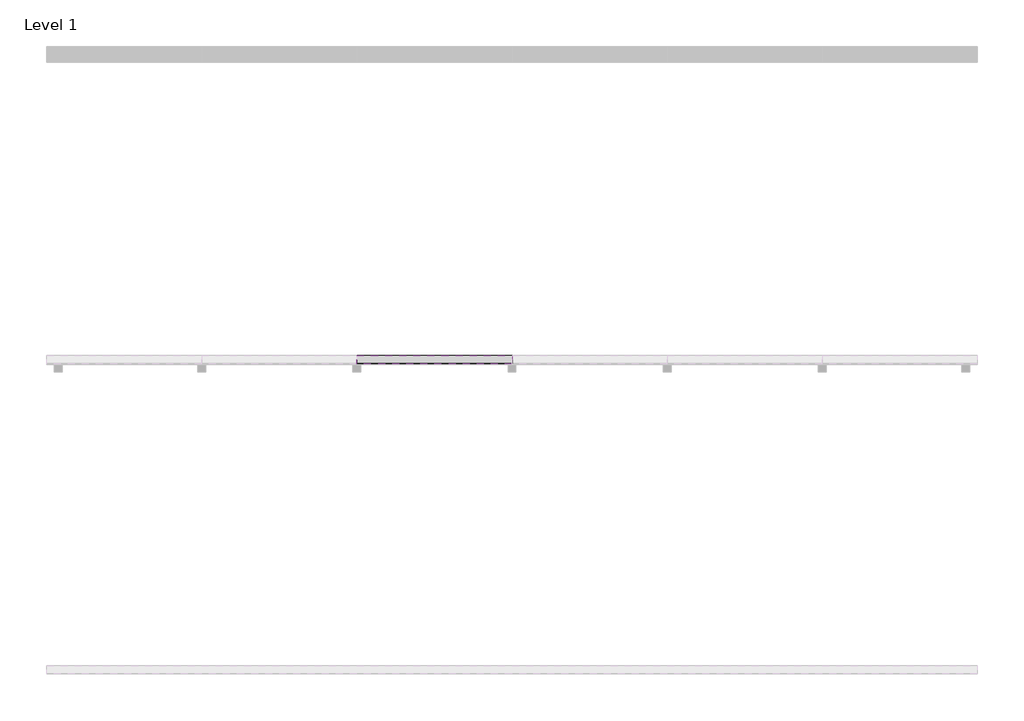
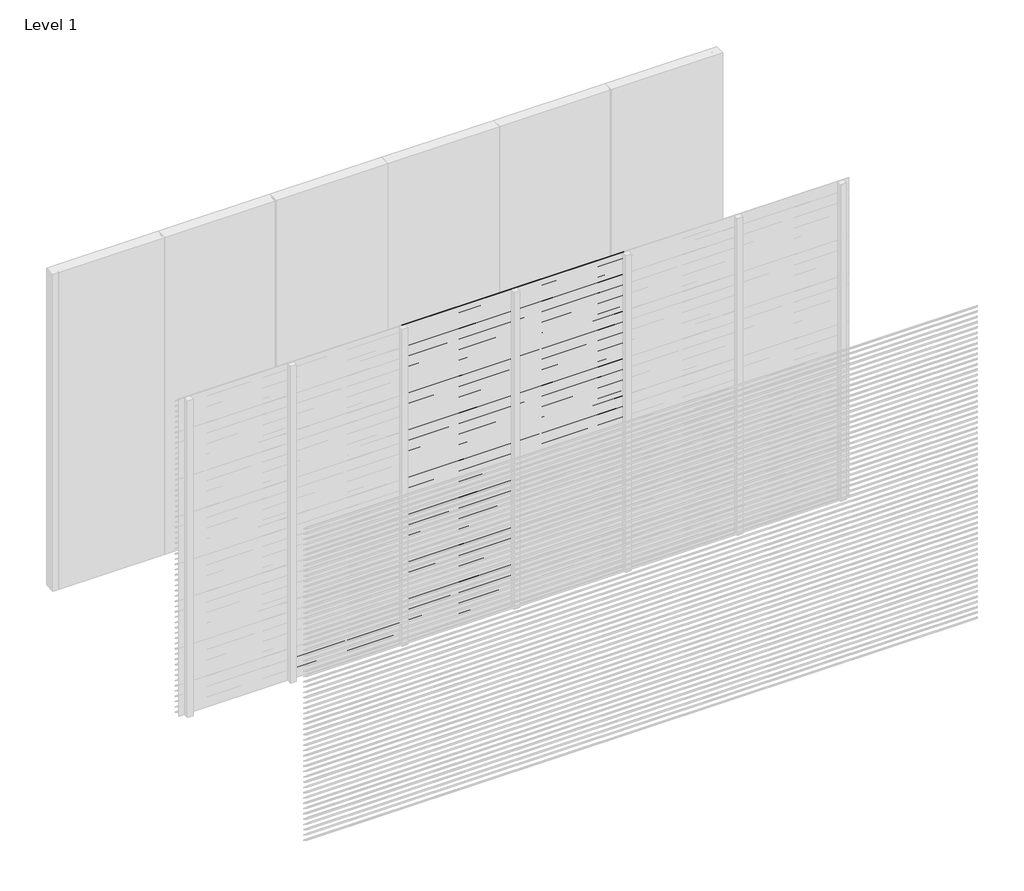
# One storey, part 8 of 18: 97 proxies.
"""IFC4 building model written with IfcOpenShell, lengths in millimetres."""

from ifc_helpers import new_model, si_unit, frame, origin, place, context, project, spatial, polyline, outline, extrude, element, save

model = new_model("IFC4")

# Units and contexts
model_context = context("Model", 3, world=origin())
ifc_project = project(units=[si_unit("LENGTHUNIT", "METRE", prefix="MILLI")], contexts=[model_context])

# Site, building, storey
site = spatial("IfcSite", under=ifc_project)
building = spatial("IfcBuilding", under=site)
storey = spatial("IfcBuildingStorey", under=building, Name="Level 1", Elevation=0.0)

# Proxies
placement = place(None, origin())
element("IfcBuildingElementProxy", 1, Name="Wall Sweeps", at=placement, inside=storey, context=model_context, shape_type="SweptSolid", body=[
    extrude(outline(polyline([(-11995.0, 200.0), (-11995.0, 191.0744429), (-11943.0, 156.0), (-11943.0, 150.0), (-11997.0, 186.4234599), (-11997.0, 200.0), (-11995.0, 200.0)])), frame((1000.0, 0.0, 0.0), z_axis=(1.0, 0.0, 0.0), x_axis=(0.0, 1.0, 0.0)), (0.0, 0.0, 1.0), 1000.0),
])
element("IfcBuildingElementProxy", 2, Name="Wall Sweeps", at=placement, inside=storey, context=model_context, shape_type="SweptSolid", body=[
    extrude(outline(polyline([(-11995.0, 150.0), (-11995.0, 141.0744429), (-11943.0, 106.0), (-11943.0, 100.0), (-11997.0, 136.4234599), (-11997.0, 150.0), (-11995.0, 150.0)])), frame((1000.0, 0.0, 0.0), z_axis=(1.0, 0.0, 0.0), x_axis=(0.0, 1.0, 0.0)), (0.0, 0.0, 1.0), 1000.0),
])
element("IfcBuildingElementProxy", 3, Name="Wall Sweeps", at=placement, inside=storey, context=model_context, shape_type="SweptSolid", body=[
    extrude(outline(polyline([(-11995.0, 100.0), (-11995.0, 91.0744429), (-11943.0, 56.0), (-11943.0, 50.0), (-11997.0, 86.4234599), (-11997.0, 100.0), (-11995.0, 100.0)])), frame((1000.0, 0.0, 0.0), z_axis=(1.0, 0.0, 0.0), x_axis=(0.0, 1.0, 0.0)), (0.0, 0.0, 1.0), 1000.0),
])
element("IfcBuildingElementProxy", 4, Name="Wall Sweeps", at=placement, inside=storey, context=model_context, shape_type="SweptSolid", body=[
    extrude(outline(polyline([(-11995.0, 50.0), (-11995.0, 41.0744429), (-11943.0, 6.0), (-11943.0, 0.0), (-11997.0, 36.4234599), (-11997.0, 50.0), (-11995.0, 50.0)])), frame((1000.0, 0.0, 0.0), z_axis=(1.0, 0.0, 0.0), x_axis=(0.0, 1.0, 0.0)), (0.0, 0.0, 1.0), 1000.0),
])
element("IfcBuildingElementProxy", 5, Name="Wall Sweeps", at=placement, inside=storey, context=model_context, shape_type="SweptSolid", body=[
    extrude(outline(polyline([(-11995.0, 3000.0), (-11995.0, 2991.0744429), (-11943.0, 2956.0), (-11943.0, 2950.0), (-11997.0, 2986.4234599), (-11997.0, 3000.0), (-11995.0, 3000.0)])), frame((2000.0, 0.0, 0.0), z_axis=(1.0, 0.0, 0.0), x_axis=(0.0, 1.0, 0.0)), (0.0, 0.0, 1.0), 1000.0),
])
element("IfcBuildingElementProxy", 6, Name="Wall Sweeps", at=placement, inside=storey, context=model_context, shape_type="SweptSolid", body=[
    extrude(outline(polyline([(-11995.0, 2950.0), (-11995.0, 2941.0744429), (-11943.0, 2906.0), (-11943.0, 2900.0), (-11997.0, 2936.4234599), (-11997.0, 2950.0), (-11995.0, 2950.0)])), frame((2000.0, 0.0, 0.0), z_axis=(1.0, 0.0, 0.0), x_axis=(0.0, 1.0, 0.0)), (0.0, 0.0, 1.0), 1000.0),
])
element("IfcBuildingElementProxy", 7, Name="Wall Sweeps", at=placement, inside=storey, context=model_context, shape_type="SweptSolid", body=[
    extrude(outline(polyline([(-11995.0, 2900.0), (-11995.0, 2891.0744429), (-11943.0, 2856.0), (-11943.0, 2850.0), (-11997.0, 2886.4234599), (-11997.0, 2900.0), (-11995.0, 2900.0)])), frame((2000.0, 0.0, 0.0), z_axis=(1.0, 0.0, 0.0), x_axis=(0.0, 1.0, 0.0)), (0.0, 0.0, 1.0), 1000.0),
])
element("IfcBuildingElementProxy", 8, Name="Wall Sweeps", at=placement, inside=storey, context=model_context, shape_type="SweptSolid", body=[
    extrude(outline(polyline([(-11995.0, 2850.0), (-11995.0, 2841.0744429), (-11943.0, 2806.0), (-11943.0, 2800.0), (-11997.0, 2836.4234599), (-11997.0, 2850.0), (-11995.0, 2850.0)])), frame((2000.0, 0.0, 0.0), z_axis=(1.0, 0.0, 0.0), x_axis=(0.0, 1.0, 0.0)), (0.0, 0.0, 1.0), 1000.0),
])
element("IfcBuildingElementProxy", 9, Name="Wall Sweeps", at=placement, inside=storey, context=model_context, shape_type="SweptSolid", body=[
    extrude(outline(polyline([(-11995.0, 2800.0), (-11995.0, 2791.0744429), (-11943.0, 2756.0), (-11943.0, 2750.0), (-11997.0, 2786.4234599), (-11997.0, 2800.0), (-11995.0, 2800.0)])), frame((2000.0, 0.0, 0.0), z_axis=(1.0, 0.0, 0.0), x_axis=(0.0, 1.0, 0.0)), (0.0, 0.0, 1.0), 1000.0),
])
element("IfcBuildingElementProxy", 10, Name="Wall Sweeps", at=placement, inside=storey, context=model_context, shape_type="SweptSolid", body=[
    extrude(outline(polyline([(-11995.0, 2750.0), (-11995.0, 2741.0744429), (-11943.0, 2706.0), (-11943.0, 2700.0), (-11997.0, 2736.4234599), (-11997.0, 2750.0), (-11995.0, 2750.0)])), frame((2000.0, 0.0, 0.0), z_axis=(1.0, 0.0, 0.0), x_axis=(0.0, 1.0, 0.0)), (0.0, 0.0, 1.0), 1000.0),
])
element("IfcBuildingElementProxy", 11, Name="Wall Sweeps", at=placement, inside=storey, context=model_context, shape_type="SweptSolid", body=[
    extrude(outline(polyline([(-11995.0, 2700.0), (-11995.0, 2691.0744429), (-11943.0, 2656.0), (-11943.0, 2650.0), (-11997.0, 2686.4234599), (-11997.0, 2700.0), (-11995.0, 2700.0)])), frame((2000.0, 0.0, 0.0), z_axis=(1.0, 0.0, 0.0), x_axis=(0.0, 1.0, 0.0)), (0.0, 0.0, 1.0), 1000.0),
])
element("IfcBuildingElementProxy", 12, Name="Wall Sweeps", at=placement, inside=storey, context=model_context, shape_type="SweptSolid", body=[
    extrude(outline(polyline([(-11995.0, 2650.0), (-11995.0, 2641.0744429), (-11943.0, 2606.0), (-11943.0, 2600.0), (-11997.0, 2636.4234599), (-11997.0, 2650.0), (-11995.0, 2650.0)])), frame((2000.0, 0.0, 0.0), z_axis=(1.0, 0.0, 0.0), x_axis=(0.0, 1.0, 0.0)), (0.0, 0.0, 1.0), 1000.0),
])
element("IfcBuildingElementProxy", 13, Name="Wall Sweeps", at=placement, inside=storey, context=model_context, shape_type="SweptSolid", body=[
    extrude(outline(polyline([(-11995.0, 2600.0), (-11995.0, 2591.0744429), (-11943.0, 2556.0), (-11943.0, 2550.0), (-11997.0, 2586.4234599), (-11997.0, 2600.0), (-11995.0, 2600.0)])), frame((2000.0, 0.0, 0.0), z_axis=(1.0, 0.0, 0.0), x_axis=(0.0, 1.0, 0.0)), (0.0, 0.0, 1.0), 1000.0),
])
element("IfcBuildingElementProxy", 14, Name="Wall Sweeps", at=placement, inside=storey, context=model_context, shape_type="SweptSolid", body=[
    extrude(outline(polyline([(-11995.0, 2550.0), (-11995.0, 2541.0744429), (-11943.0, 2506.0), (-11943.0, 2500.0), (-11997.0, 2536.4234599), (-11997.0, 2550.0), (-11995.0, 2550.0)])), frame((2000.0, 0.0, 0.0), z_axis=(1.0, 0.0, 0.0), x_axis=(0.0, 1.0, 0.0)), (0.0, 0.0, 1.0), 1000.0),
])
element("IfcBuildingElementProxy", 15, Name="Wall Sweeps", at=placement, inside=storey, context=model_context, shape_type="SweptSolid", body=[
    extrude(outline(polyline([(-11995.0, 2500.0), (-11995.0, 2491.0744429), (-11943.0, 2456.0), (-11943.0, 2450.0), (-11997.0, 2486.4234599), (-11997.0, 2500.0), (-11995.0, 2500.0)])), frame((2000.0, 0.0, 0.0), z_axis=(1.0, 0.0, 0.0), x_axis=(0.0, 1.0, 0.0)), (0.0, 0.0, 1.0), 1000.0),
])
element("IfcBuildingElementProxy", 16, Name="Wall Sweeps", at=placement, inside=storey, context=model_context, shape_type="SweptSolid", body=[
    extrude(outline(polyline([(-11995.0, 2450.0), (-11995.0, 2441.0744429), (-11943.0, 2406.0), (-11943.0, 2400.0), (-11997.0, 2436.4234599), (-11997.0, 2450.0), (-11995.0, 2450.0)])), frame((2000.0, 0.0, 0.0), z_axis=(1.0, 0.0, 0.0), x_axis=(0.0, 1.0, 0.0)), (0.0, 0.0, 1.0), 1000.0),
])
element("IfcBuildingElementProxy", 17, Name="Wall Sweeps", at=placement, inside=storey, context=model_context, shape_type="SweptSolid", body=[
    extrude(outline(polyline([(-11995.0, 2400.0), (-11995.0, 2391.0744429), (-11943.0, 2356.0), (-11943.0, 2350.0), (-11997.0, 2386.4234599), (-11997.0, 2400.0), (-11995.0, 2400.0)])), frame((2000.0, 0.0, 0.0), z_axis=(1.0, 0.0, 0.0), x_axis=(0.0, 1.0, 0.0)), (0.0, 0.0, 1.0), 1000.0),
])
element("IfcBuildingElementProxy", 18, Name="Wall Sweeps", at=placement, inside=storey, context=model_context, shape_type="SweptSolid", body=[
    extrude(outline(polyline([(-11995.0, 2350.0), (-11995.0, 2341.0744429), (-11943.0, 2306.0), (-11943.0, 2300.0), (-11997.0, 2336.4234599), (-11997.0, 2350.0), (-11995.0, 2350.0)])), frame((2000.0, 0.0, 0.0), z_axis=(1.0, 0.0, 0.0), x_axis=(0.0, 1.0, 0.0)), (0.0, 0.0, 1.0), 1000.0),
])
element("IfcBuildingElementProxy", 19, Name="Wall Sweeps", at=placement, inside=storey, context=model_context, shape_type="SweptSolid", body=[
    extrude(outline(polyline([(-11995.0, 2300.0), (-11995.0, 2291.0744429), (-11943.0, 2256.0), (-11943.0, 2250.0), (-11997.0, 2286.4234599), (-11997.0, 2300.0), (-11995.0, 2300.0)])), frame((2000.0, 0.0, 0.0), z_axis=(1.0, 0.0, 0.0), x_axis=(0.0, 1.0, 0.0)), (0.0, 0.0, 1.0), 1000.0),
])
element("IfcBuildingElementProxy", 20, Name="Wall Sweeps", at=placement, inside=storey, context=model_context, shape_type="SweptSolid", body=[
    extrude(outline(polyline([(-11995.0, 2250.0), (-11995.0, 2241.0744429), (-11943.0, 2206.0), (-11943.0, 2200.0), (-11997.0, 2236.4234599), (-11997.0, 2250.0), (-11995.0, 2250.0)])), frame((2000.0, 0.0, 0.0), z_axis=(1.0, 0.0, 0.0), x_axis=(0.0, 1.0, 0.0)), (0.0, 0.0, 1.0), 1000.0),
])
element("IfcBuildingElementProxy", 21, Name="Wall Sweeps", at=placement, inside=storey, context=model_context, shape_type="SweptSolid", body=[
    extrude(outline(polyline([(-11995.0, 2200.0), (-11995.0, 2191.0744429), (-11943.0, 2156.0), (-11943.0, 2150.0), (-11997.0, 2186.4234599), (-11997.0, 2200.0), (-11995.0, 2200.0)])), frame((2000.0, 0.0, 0.0), z_axis=(1.0, 0.0, 0.0), x_axis=(0.0, 1.0, 0.0)), (0.0, 0.0, 1.0), 1000.0),
])
element("IfcBuildingElementProxy", 22, Name="Wall Sweeps", at=placement, inside=storey, context=model_context, shape_type="SweptSolid", body=[
    extrude(outline(polyline([(-11995.0, 2150.0), (-11995.0, 2141.0744429), (-11943.0, 2106.0), (-11943.0, 2100.0), (-11997.0, 2136.4234599), (-11997.0, 2150.0), (-11995.0, 2150.0)])), frame((2000.0, 0.0, 0.0), z_axis=(1.0, 0.0, 0.0), x_axis=(0.0, 1.0, 0.0)), (0.0, 0.0, 1.0), 1000.0),
])
element("IfcBuildingElementProxy", 23, Name="Wall Sweeps", at=placement, inside=storey, context=model_context, shape_type="SweptSolid", body=[
    extrude(outline(polyline([(-11995.0, 2100.0), (-11995.0, 2091.0744429), (-11943.0, 2056.0), (-11943.0, 2050.0), (-11997.0, 2086.4234599), (-11997.0, 2100.0), (-11995.0, 2100.0)])), frame((2000.0, 0.0, 0.0), z_axis=(1.0, 0.0, 0.0), x_axis=(0.0, 1.0, 0.0)), (0.0, 0.0, 1.0), 1000.0),
])
element("IfcBuildingElementProxy", 24, Name="Wall Sweeps", at=placement, inside=storey, context=model_context, shape_type="SweptSolid", body=[
    extrude(outline(polyline([(-11995.0, 2050.0), (-11995.0, 2041.0744429), (-11943.0, 2006.0), (-11943.0, 2000.0), (-11997.0, 2036.4234599), (-11997.0, 2050.0), (-11995.0, 2050.0)])), frame((2000.0, 0.0, 0.0), z_axis=(1.0, 0.0, 0.0), x_axis=(0.0, 1.0, 0.0)), (0.0, 0.0, 1.0), 1000.0),
])
element("IfcBuildingElementProxy", 25, Name="Wall Sweeps", at=placement, inside=storey, context=model_context, shape_type="SweptSolid", body=[
    extrude(outline(polyline([(-11995.0, 2000.0), (-11995.0, 1991.0744429), (-11943.0, 1956.0), (-11943.0, 1950.0), (-11997.0, 1986.4234599), (-11997.0, 2000.0), (-11995.0, 2000.0)])), frame((2000.0, 0.0, 0.0), z_axis=(1.0, 0.0, 0.0), x_axis=(0.0, 1.0, 0.0)), (0.0, 0.0, 1.0), 1000.0),
])
element("IfcBuildingElementProxy", 26, Name="Wall Sweeps", at=placement, inside=storey, context=model_context, shape_type="SweptSolid", body=[
    extrude(outline(polyline([(-11995.0, 1950.0), (-11995.0, 1941.0744429), (-11943.0, 1906.0), (-11943.0, 1900.0), (-11997.0, 1936.4234599), (-11997.0, 1950.0), (-11995.0, 1950.0)])), frame((2000.0, 0.0, 0.0), z_axis=(1.0, 0.0, 0.0), x_axis=(0.0, 1.0, 0.0)), (0.0, 0.0, 1.0), 1000.0),
])
element("IfcBuildingElementProxy", 27, Name="Wall Sweeps", at=placement, inside=storey, context=model_context, shape_type="SweptSolid", body=[
    extrude(outline(polyline([(-11995.0, 1900.0), (-11995.0, 1891.0744429), (-11943.0, 1856.0), (-11943.0, 1850.0), (-11997.0, 1886.4234599), (-11997.0, 1900.0), (-11995.0, 1900.0)])), frame((2000.0, 0.0, 0.0), z_axis=(1.0, 0.0, 0.0), x_axis=(0.0, 1.0, 0.0)), (0.0, 0.0, 1.0), 1000.0),
])
element("IfcBuildingElementProxy", 28, Name="Wall Sweeps", at=placement, inside=storey, context=model_context, shape_type="SweptSolid", body=[
    extrude(outline(polyline([(-11995.0, 1850.0), (-11995.0, 1841.0744429), (-11943.0, 1806.0), (-11943.0, 1800.0), (-11997.0, 1836.4234599), (-11997.0, 1850.0), (-11995.0, 1850.0)])), frame((2000.0, 0.0, 0.0), z_axis=(1.0, 0.0, 0.0), x_axis=(0.0, 1.0, 0.0)), (0.0, 0.0, 1.0), 1000.0),
])
element("IfcBuildingElementProxy", 29, Name="Wall Sweeps", at=placement, inside=storey, context=model_context, shape_type="SweptSolid", body=[
    extrude(outline(polyline([(-11995.0, 1800.0), (-11995.0, 1791.0744429), (-11943.0, 1756.0), (-11943.0, 1750.0), (-11997.0, 1786.4234599), (-11997.0, 1800.0), (-11995.0, 1800.0)])), frame((2000.0, 0.0, 0.0), z_axis=(1.0, 0.0, 0.0), x_axis=(0.0, 1.0, 0.0)), (0.0, 0.0, 1.0), 1000.0),
])
element("IfcBuildingElementProxy", 30, Name="Wall Sweeps", at=placement, inside=storey, context=model_context, shape_type="SweptSolid", body=[
    extrude(outline(polyline([(-11995.0, 1750.0), (-11995.0, 1741.0744429), (-11943.0, 1706.0), (-11943.0, 1700.0), (-11997.0, 1736.4234599), (-11997.0, 1750.0), (-11995.0, 1750.0)])), frame((2000.0, 0.0, 0.0), z_axis=(1.0, 0.0, 0.0), x_axis=(0.0, 1.0, 0.0)), (0.0, 0.0, 1.0), 1000.0),
])
element("IfcBuildingElementProxy", 31, Name="Wall Sweeps", at=placement, inside=storey, context=model_context, shape_type="SweptSolid", body=[
    extrude(outline(polyline([(-11995.0, 1700.0), (-11995.0, 1691.0744429), (-11943.0, 1656.0), (-11943.0, 1650.0), (-11997.0, 1686.4234599), (-11997.0, 1700.0), (-11995.0, 1700.0)])), frame((2000.0, 0.0, 0.0), z_axis=(1.0, 0.0, 0.0), x_axis=(0.0, 1.0, 0.0)), (0.0, 0.0, 1.0), 1000.0),
])
element("IfcBuildingElementProxy", 32, Name="Wall Sweeps", at=placement, inside=storey, context=model_context, shape_type="SweptSolid", body=[
    extrude(outline(polyline([(-11995.0, 1650.0), (-11995.0, 1641.0744429), (-11943.0, 1606.0), (-11943.0, 1600.0), (-11997.0, 1636.4234599), (-11997.0, 1650.0), (-11995.0, 1650.0)])), frame((2000.0, 0.0, 0.0), z_axis=(1.0, 0.0, 0.0), x_axis=(0.0, 1.0, 0.0)), (0.0, 0.0, 1.0), 1000.0),
])
element("IfcBuildingElementProxy", 33, Name="Wall Sweeps", at=placement, inside=storey, context=model_context, shape_type="SweptSolid", body=[
    extrude(outline(polyline([(-11995.0, 1600.0), (-11995.0, 1591.0744429), (-11943.0, 1556.0), (-11943.0, 1550.0), (-11997.0, 1586.4234599), (-11997.0, 1600.0), (-11995.0, 1600.0)])), frame((2000.0, 0.0, 0.0), z_axis=(1.0, 0.0, 0.0), x_axis=(0.0, 1.0, 0.0)), (0.0, 0.0, 1.0), 1000.0),
])
element("IfcBuildingElementProxy", 34, Name="Wall Sweeps", at=placement, inside=storey, context=model_context, shape_type="SweptSolid", body=[
    extrude(outline(polyline([(-11995.0, 1550.0), (-11995.0, 1541.0744429), (-11943.0, 1506.0), (-11943.0, 1500.0), (-11997.0, 1536.4234599), (-11997.0, 1550.0), (-11995.0, 1550.0)])), frame((2000.0, 0.0, 0.0), z_axis=(1.0, 0.0, 0.0), x_axis=(0.0, 1.0, 0.0)), (0.0, 0.0, 1.0), 1000.0),
])
element("IfcBuildingElementProxy", 35, Name="Wall Sweeps", at=placement, inside=storey, context=model_context, shape_type="SweptSolid", body=[
    extrude(outline(polyline([(-11995.0, 1500.0), (-11995.0, 1491.0744429), (-11943.0, 1456.0), (-11943.0, 1450.0), (-11997.0, 1486.4234599), (-11997.0, 1500.0), (-11995.0, 1500.0)])), frame((2000.0, 0.0, 0.0), z_axis=(1.0, 0.0, 0.0), x_axis=(0.0, 1.0, 0.0)), (0.0, 0.0, 1.0), 1000.0),
])
element("IfcBuildingElementProxy", 36, Name="Wall Sweeps", at=placement, inside=storey, context=model_context, shape_type="SweptSolid", body=[
    extrude(outline(polyline([(-11995.0, 1450.0), (-11995.0, 1441.0744429), (-11943.0, 1406.0), (-11943.0, 1400.0), (-11997.0, 1436.4234599), (-11997.0, 1450.0), (-11995.0, 1450.0)])), frame((2000.0, 0.0, 0.0), z_axis=(1.0, 0.0, 0.0), x_axis=(0.0, 1.0, 0.0)), (0.0, 0.0, 1.0), 1000.0),
])
element("IfcBuildingElementProxy", 37, Name="Wall Sweeps", at=placement, inside=storey, context=model_context, shape_type="SweptSolid", body=[
    extrude(outline(polyline([(-11995.0, 1400.0), (-11995.0, 1391.0744429), (-11943.0, 1356.0), (-11943.0, 1350.0), (-11997.0, 1386.4234599), (-11997.0, 1400.0), (-11995.0, 1400.0)])), frame((2000.0, 0.0, 0.0), z_axis=(1.0, 0.0, 0.0), x_axis=(0.0, 1.0, 0.0)), (0.0, 0.0, 1.0), 1000.0),
])
element("IfcBuildingElementProxy", 38, Name="Wall Sweeps", at=placement, inside=storey, context=model_context, shape_type="SweptSolid", body=[
    extrude(outline(polyline([(-11995.0, 1350.0), (-11995.0, 1341.0744429), (-11943.0, 1306.0), (-11943.0, 1300.0), (-11997.0, 1336.4234599), (-11997.0, 1350.0), (-11995.0, 1350.0)])), frame((2000.0, 0.0, 0.0), z_axis=(1.0, 0.0, 0.0), x_axis=(0.0, 1.0, 0.0)), (0.0, 0.0, 1.0), 1000.0),
])
element("IfcBuildingElementProxy", 39, Name="Wall Sweeps", at=placement, inside=storey, context=model_context, shape_type="SweptSolid", body=[
    extrude(outline(polyline([(-11995.0, 1300.0), (-11995.0, 1291.0744429), (-11943.0, 1256.0), (-11943.0, 1250.0), (-11997.0, 1286.4234599), (-11997.0, 1300.0), (-11995.0, 1300.0)])), frame((2000.0, 0.0, 0.0), z_axis=(1.0, 0.0, 0.0), x_axis=(0.0, 1.0, 0.0)), (0.0, 0.0, 1.0), 1000.0),
])
element("IfcBuildingElementProxy", 40, Name="Wall Sweeps", at=placement, inside=storey, context=model_context, shape_type="SweptSolid", body=[
    extrude(outline(polyline([(-11995.0, 1250.0), (-11995.0, 1241.0744429), (-11943.0, 1206.0), (-11943.0, 1200.0), (-11997.0, 1236.4234599), (-11997.0, 1250.0), (-11995.0, 1250.0)])), frame((2000.0, 0.0, 0.0), z_axis=(1.0, 0.0, 0.0), x_axis=(0.0, 1.0, 0.0)), (0.0, 0.0, 1.0), 1000.0),
])
element("IfcBuildingElementProxy", 41, Name="Wall Sweeps", at=placement, inside=storey, context=model_context, shape_type="SweptSolid", body=[
    extrude(outline(polyline([(-11995.0, 1200.0), (-11995.0, 1191.0744429), (-11943.0, 1156.0), (-11943.0, 1150.0), (-11997.0, 1186.4234599), (-11997.0, 1200.0), (-11995.0, 1200.0)])), frame((2000.0, 0.0, 0.0), z_axis=(1.0, 0.0, 0.0), x_axis=(0.0, 1.0, 0.0)), (0.0, 0.0, 1.0), 1000.0),
])
element("IfcBuildingElementProxy", 42, Name="Wall Sweeps", at=placement, inside=storey, context=model_context, shape_type="SweptSolid", body=[
    extrude(outline(polyline([(-11995.0, 1150.0), (-11995.0, 1141.0744429), (-11943.0, 1106.0), (-11943.0, 1100.0), (-11997.0, 1136.4234599), (-11997.0, 1150.0), (-11995.0, 1150.0)])), frame((2000.0, 0.0, 0.0), z_axis=(1.0, 0.0, 0.0), x_axis=(0.0, 1.0, 0.0)), (0.0, 0.0, 1.0), 1000.0),
])
element("IfcBuildingElementProxy", 43, Name="Wall Sweeps", at=placement, inside=storey, context=model_context, shape_type="SweptSolid", body=[
    extrude(outline(polyline([(-11995.0, 1100.0), (-11995.0, 1091.0744429), (-11943.0, 1056.0), (-11943.0, 1050.0), (-11997.0, 1086.4234599), (-11997.0, 1100.0), (-11995.0, 1100.0)])), frame((2000.0, 0.0, 0.0), z_axis=(1.0, 0.0, 0.0), x_axis=(0.0, 1.0, 0.0)), (0.0, 0.0, 1.0), 1000.0),
])
element("IfcBuildingElementProxy", 44, Name="Wall Sweeps", at=placement, inside=storey, context=model_context, shape_type="SweptSolid", body=[
    extrude(outline(polyline([(-11995.0, 1050.0), (-11995.0, 1041.0744429), (-11943.0, 1006.0), (-11943.0, 1000.0), (-11997.0, 1036.4234599), (-11997.0, 1050.0), (-11995.0, 1050.0)])), frame((2000.0, 0.0, 0.0), z_axis=(1.0, 0.0, 0.0), x_axis=(0.0, 1.0, 0.0)), (0.0, 0.0, 1.0), 1000.0),
])
element("IfcBuildingElementProxy", 45, Name="Wall Sweeps", at=placement, inside=storey, context=model_context, shape_type="SweptSolid", body=[
    extrude(outline(polyline([(-11995.0, 1000.0), (-11995.0, 991.0744429), (-11943.0, 956.0), (-11943.0, 950.0), (-11997.0, 986.4234599), (-11997.0, 1000.0), (-11995.0, 1000.0)])), frame((2000.0, 0.0, 0.0), z_axis=(1.0, 0.0, 0.0), x_axis=(0.0, 1.0, 0.0)), (0.0, 0.0, 1.0), 1000.0),
])
element("IfcBuildingElementProxy", 46, Name="Wall Sweeps", at=placement, inside=storey, context=model_context, shape_type="SweptSolid", body=[
    extrude(outline(polyline([(-11995.0, 950.0), (-11995.0, 941.0744429), (-11943.0, 906.0), (-11943.0, 900.0), (-11997.0, 936.4234599), (-11997.0, 950.0), (-11995.0, 950.0)])), frame((2000.0, 0.0, 0.0), z_axis=(1.0, 0.0, 0.0), x_axis=(0.0, 1.0, 0.0)), (0.0, 0.0, 1.0), 1000.0),
])
element("IfcBuildingElementProxy", 47, Name="Wall Sweeps", at=placement, inside=storey, context=model_context, shape_type="SweptSolid", body=[
    extrude(outline(polyline([(-11995.0, 900.0), (-11995.0, 891.0744429), (-11943.0, 856.0), (-11943.0, 850.0), (-11997.0, 886.4234599), (-11997.0, 900.0), (-11995.0, 900.0)])), frame((2000.0, 0.0, 0.0), z_axis=(1.0, 0.0, 0.0), x_axis=(0.0, 1.0, 0.0)), (0.0, 0.0, 1.0), 1000.0),
])
element("IfcBuildingElementProxy", 48, Name="Wall Sweeps", at=placement, inside=storey, context=model_context, shape_type="SweptSolid", body=[
    extrude(outline(polyline([(-11995.0, 850.0), (-11995.0, 841.0744429), (-11943.0, 806.0), (-11943.0, 800.0), (-11997.0, 836.4234599), (-11997.0, 850.0), (-11995.0, 850.0)])), frame((2000.0, 0.0, 0.0), z_axis=(1.0, 0.0, 0.0), x_axis=(0.0, 1.0, 0.0)), (0.0, 0.0, 1.0), 1000.0),
])
element("IfcBuildingElementProxy", 49, Name="Wall Sweeps", at=placement, inside=storey, context=model_context, shape_type="SweptSolid", body=[
    extrude(outline(polyline([(-11995.0, 800.0), (-11995.0, 791.0744429), (-11943.0, 756.0), (-11943.0, 750.0), (-11997.0, 786.4234599), (-11997.0, 800.0), (-11995.0, 800.0)])), frame((2000.0, 0.0, 0.0), z_axis=(1.0, 0.0, 0.0), x_axis=(0.0, 1.0, 0.0)), (0.0, 0.0, 1.0), 1000.0),
])
element("IfcBuildingElementProxy", 50, Name="Wall Sweeps", at=placement, inside=storey, context=model_context, shape_type="SweptSolid", body=[
    extrude(outline(polyline([(-11995.0, 750.0), (-11995.0, 741.0744429), (-11943.0, 706.0), (-11943.0, 700.0), (-11997.0, 736.4234599), (-11997.0, 750.0), (-11995.0, 750.0)])), frame((2000.0, 0.0, 0.0), z_axis=(1.0, 0.0, 0.0), x_axis=(0.0, 1.0, 0.0)), (0.0, 0.0, 1.0), 1000.0),
])
element("IfcBuildingElementProxy", 51, Name="Wall Sweeps", at=placement, inside=storey, context=model_context, shape_type="SweptSolid", body=[
    extrude(outline(polyline([(-11995.0, 700.0), (-11995.0, 691.0744429), (-11943.0, 656.0), (-11943.0, 650.0), (-11997.0, 686.4234599), (-11997.0, 700.0), (-11995.0, 700.0)])), frame((2000.0, 0.0, 0.0), z_axis=(1.0, 0.0, 0.0), x_axis=(0.0, 1.0, 0.0)), (0.0, 0.0, 1.0), 1000.0),
])
element("IfcBuildingElementProxy", 52, Name="Wall Sweeps", at=placement, inside=storey, context=model_context, shape_type="SweptSolid", body=[
    extrude(outline(polyline([(-11995.0, 650.0), (-11995.0, 641.0744429), (-11943.0, 606.0), (-11943.0, 600.0), (-11997.0, 636.4234599), (-11997.0, 650.0), (-11995.0, 650.0)])), frame((2000.0, 0.0, 0.0), z_axis=(1.0, 0.0, 0.0), x_axis=(0.0, 1.0, 0.0)), (0.0, 0.0, 1.0), 1000.0),
])
element("IfcBuildingElementProxy", 53, Name="Wall Sweeps", at=placement, inside=storey, context=model_context, shape_type="SweptSolid", body=[
    extrude(outline(polyline([(-11995.0, 600.0), (-11995.0, 591.0744429), (-11943.0, 556.0), (-11943.0, 550.0), (-11997.0, 586.4234599), (-11997.0, 600.0), (-11995.0, 600.0)])), frame((2000.0, 0.0, 0.0), z_axis=(1.0, 0.0, 0.0), x_axis=(0.0, 1.0, 0.0)), (0.0, 0.0, 1.0), 1000.0),
])
element("IfcBuildingElementProxy", 54, Name="Wall Sweeps", at=placement, inside=storey, context=model_context, shape_type="SweptSolid", body=[
    extrude(outline(polyline([(-11995.0, 550.0), (-11995.0, 541.0744429), (-11943.0, 506.0), (-11943.0, 500.0), (-11997.0, 536.4234599), (-11997.0, 550.0), (-11995.0, 550.0)])), frame((2000.0, 0.0, 0.0), z_axis=(1.0, 0.0, 0.0), x_axis=(0.0, 1.0, 0.0)), (0.0, 0.0, 1.0), 1000.0),
])
element("IfcBuildingElementProxy", 55, Name="Wall Sweeps", at=placement, inside=storey, context=model_context, shape_type="SweptSolid", body=[
    extrude(outline(polyline([(-11995.0, 500.0), (-11995.0, 491.0744429), (-11943.0, 456.0), (-11943.0, 450.0), (-11997.0, 486.4234599), (-11997.0, 500.0), (-11995.0, 500.0)])), frame((2000.0, 0.0, 0.0), z_axis=(1.0, 0.0, 0.0), x_axis=(0.0, 1.0, 0.0)), (0.0, 0.0, 1.0), 1000.0),
])
element("IfcBuildingElementProxy", 56, Name="Wall Sweeps", at=placement, inside=storey, context=model_context, shape_type="SweptSolid", body=[
    extrude(outline(polyline([(-11995.0, 450.0), (-11995.0, 441.0744429), (-11943.0, 406.0), (-11943.0, 400.0), (-11997.0, 436.4234599), (-11997.0, 450.0), (-11995.0, 450.0)])), frame((2000.0, 0.0, 0.0), z_axis=(1.0, 0.0, 0.0), x_axis=(0.0, 1.0, 0.0)), (0.0, 0.0, 1.0), 1000.0),
])
element("IfcBuildingElementProxy", 57, Name="Wall Sweeps", at=placement, inside=storey, context=model_context, shape_type="SweptSolid", body=[
    extrude(outline(polyline([(-11995.0, 400.0), (-11995.0, 391.0744429), (-11943.0, 356.0), (-11943.0, 350.0), (-11997.0, 386.4234599), (-11997.0, 400.0), (-11995.0, 400.0)])), frame((2000.0, 0.0, 0.0), z_axis=(1.0, 0.0, 0.0), x_axis=(0.0, 1.0, 0.0)), (0.0, 0.0, 1.0), 1000.0),
])
element("IfcBuildingElementProxy", 58, Name="Wall Sweeps", at=placement, inside=storey, context=model_context, shape_type="SweptSolid", body=[
    extrude(outline(polyline([(-11995.0, 350.0), (-11995.0, 341.0744429), (-11943.0, 306.0), (-11943.0, 300.0), (-11997.0, 336.4234599), (-11997.0, 350.0), (-11995.0, 350.0)])), frame((2000.0, 0.0, 0.0), z_axis=(1.0, 0.0, 0.0), x_axis=(0.0, 1.0, 0.0)), (0.0, 0.0, 1.0), 1000.0),
])
element("IfcBuildingElementProxy", 59, Name="Wall Sweeps", at=placement, inside=storey, context=model_context, shape_type="SweptSolid", body=[
    extrude(outline(polyline([(-11995.0, 300.0), (-11995.0, 291.0744429), (-11943.0, 256.0), (-11943.0, 250.0), (-11997.0, 286.4234599), (-11997.0, 300.0), (-11995.0, 300.0)])), frame((2000.0, 0.0, 0.0), z_axis=(1.0, 0.0, 0.0), x_axis=(0.0, 1.0, 0.0)), (0.0, 0.0, 1.0), 1000.0),
])
element("IfcBuildingElementProxy", 60, Name="Wall Sweeps", at=placement, inside=storey, context=model_context, shape_type="SweptSolid", body=[
    extrude(outline(polyline([(-11995.0, 250.0), (-11995.0, 241.0744429), (-11943.0, 206.0), (-11943.0, 200.0), (-11997.0, 236.4234599), (-11997.0, 250.0), (-11995.0, 250.0)])), frame((2000.0, 0.0, 0.0), z_axis=(1.0, 0.0, 0.0), x_axis=(0.0, 1.0, 0.0)), (0.0, 0.0, 1.0), 1000.0),
])
element("IfcBuildingElementProxy", 61, Name="Wall Sweeps", at=placement, inside=storey, context=model_context, shape_type="SweptSolid", body=[
    extrude(outline(polyline([(-11995.0, 200.0), (-11995.0, 191.0744429), (-11943.0, 156.0), (-11943.0, 150.0), (-11997.0, 186.4234599), (-11997.0, 200.0), (-11995.0, 200.0)])), frame((2000.0, 0.0, 0.0), z_axis=(1.0, 0.0, 0.0), x_axis=(0.0, 1.0, 0.0)), (0.0, 0.0, 1.0), 1000.0),
])
element("IfcBuildingElementProxy", 62, Name="Wall Sweeps", at=placement, inside=storey, context=model_context, shape_type="SweptSolid", body=[
    extrude(outline(polyline([(-11995.0, 150.0), (-11995.0, 141.0744429), (-11943.0, 106.0), (-11943.0, 100.0), (-11997.0, 136.4234599), (-11997.0, 150.0), (-11995.0, 150.0)])), frame((2000.0, 0.0, 0.0), z_axis=(1.0, 0.0, 0.0), x_axis=(0.0, 1.0, 0.0)), (0.0, 0.0, 1.0), 1000.0),
])
element("IfcBuildingElementProxy", 63, Name="Wall Sweeps", at=placement, inside=storey, context=model_context, shape_type="SweptSolid", body=[
    extrude(outline(polyline([(-11995.0, 100.0), (-11995.0, 91.0744429), (-11943.0, 56.0), (-11943.0, 50.0), (-11997.0, 86.4234599), (-11997.0, 100.0), (-11995.0, 100.0)])), frame((2000.0, 0.0, 0.0), z_axis=(1.0, 0.0, 0.0), x_axis=(0.0, 1.0, 0.0)), (0.0, 0.0, 1.0), 1000.0),
])
element("IfcBuildingElementProxy", 64, Name="Wall Sweeps", at=placement, inside=storey, context=model_context, shape_type="SweptSolid", body=[
    extrude(outline(polyline([(-11995.0, 50.0), (-11995.0, 41.0744429), (-11943.0, 6.0), (-11943.0, 0.0), (-11997.0, 36.4234599), (-11997.0, 50.0), (-11995.0, 50.0)])), frame((2000.0, 0.0, 0.0), z_axis=(1.0, 0.0, 0.0), x_axis=(0.0, 1.0, 0.0)), (0.0, 0.0, 1.0), 1000.0),
])
element("IfcBuildingElementProxy", 65, Name="Wall Sweeps", at=placement, inside=storey, context=model_context, shape_type="SweptSolid", body=[
    extrude(outline(polyline([(-11995.0, 3000.0), (-11995.0, 2991.0744429), (-11943.0, 2956.0), (-11943.0, 2950.0), (-11997.0, 2986.4234599), (-11997.0, 3000.0), (-11995.0, 3000.0)])), frame((3000.0, 0.0, 0.0), z_axis=(1.0, 0.0, 0.0), x_axis=(0.0, 1.0, 0.0)), (0.0, 0.0, 1.0), 1000.0),
])
element("IfcBuildingElementProxy", 66, Name="Wall Sweeps", at=placement, inside=storey, context=model_context, shape_type="SweptSolid", body=[
    extrude(outline(polyline([(-11995.0, 2950.0), (-11995.0, 2941.0744429), (-11943.0, 2906.0), (-11943.0, 2900.0), (-11997.0, 2936.4234599), (-11997.0, 2950.0), (-11995.0, 2950.0)])), frame((3000.0, 0.0, 0.0), z_axis=(1.0, 0.0, 0.0), x_axis=(0.0, 1.0, 0.0)), (0.0, 0.0, 1.0), 1000.0),
])
element("IfcBuildingElementProxy", 67, Name="Wall Sweeps", at=placement, inside=storey, context=model_context, shape_type="SweptSolid", body=[
    extrude(outline(polyline([(-11995.0, 2900.0), (-11995.0, 2891.0744429), (-11943.0, 2856.0), (-11943.0, 2850.0), (-11997.0, 2886.4234599), (-11997.0, 2900.0), (-11995.0, 2900.0)])), frame((3000.0, 0.0, 0.0), z_axis=(1.0, 0.0, 0.0), x_axis=(0.0, 1.0, 0.0)), (0.0, 0.0, 1.0), 1000.0),
])
element("IfcBuildingElementProxy", 68, Name="Wall Sweeps", at=placement, inside=storey, context=model_context, shape_type="SweptSolid", body=[
    extrude(outline(polyline([(-11995.0, 2850.0), (-11995.0, 2841.0744429), (-11943.0, 2806.0), (-11943.0, 2800.0), (-11997.0, 2836.4234599), (-11997.0, 2850.0), (-11995.0, 2850.0)])), frame((3000.0, 0.0, 0.0), z_axis=(1.0, 0.0, 0.0), x_axis=(0.0, 1.0, 0.0)), (0.0, 0.0, 1.0), 1000.0),
])
element("IfcBuildingElementProxy", 69, Name="Wall Sweeps", at=placement, inside=storey, context=model_context, shape_type="SweptSolid", body=[
    extrude(outline(polyline([(-11995.0, 2800.0), (-11995.0, 2791.0744429), (-11943.0, 2756.0), (-11943.0, 2750.0), (-11997.0, 2786.4234599), (-11997.0, 2800.0), (-11995.0, 2800.0)])), frame((3000.0, 0.0, 0.0), z_axis=(1.0, 0.0, 0.0), x_axis=(0.0, 1.0, 0.0)), (0.0, 0.0, 1.0), 1000.0),
])
element("IfcBuildingElementProxy", 70, Name="Wall Sweeps", at=placement, inside=storey, context=model_context, shape_type="SweptSolid", body=[
    extrude(outline(polyline([(-11995.0, 2750.0), (-11995.0, 2741.0744429), (-11943.0, 2706.0), (-11943.0, 2700.0), (-11997.0, 2736.4234599), (-11997.0, 2750.0), (-11995.0, 2750.0)])), frame((3000.0, 0.0, 0.0), z_axis=(1.0, 0.0, 0.0), x_axis=(0.0, 1.0, 0.0)), (0.0, 0.0, 1.0), 1000.0),
])
element("IfcBuildingElementProxy", 71, Name="Wall Sweeps", at=placement, inside=storey, context=model_context, shape_type="SweptSolid", body=[
    extrude(outline(polyline([(-11995.0, 2700.0), (-11995.0, 2691.0744429), (-11943.0, 2656.0), (-11943.0, 2650.0), (-11997.0, 2686.4234599), (-11997.0, 2700.0), (-11995.0, 2700.0)])), frame((3000.0, 0.0, 0.0), z_axis=(1.0, 0.0, 0.0), x_axis=(0.0, 1.0, 0.0)), (0.0, 0.0, 1.0), 1000.0),
])
element("IfcBuildingElementProxy", 72, Name="Wall Sweeps", at=placement, inside=storey, context=model_context, shape_type="SweptSolid", body=[
    extrude(outline(polyline([(-11995.0, 2650.0), (-11995.0, 2641.0744429), (-11943.0, 2606.0), (-11943.0, 2600.0), (-11997.0, 2636.4234599), (-11997.0, 2650.0), (-11995.0, 2650.0)])), frame((3000.0, 0.0, 0.0), z_axis=(1.0, 0.0, 0.0), x_axis=(0.0, 1.0, 0.0)), (0.0, 0.0, 1.0), 1000.0),
])
element("IfcBuildingElementProxy", 73, Name="Wall Sweeps", at=placement, inside=storey, context=model_context, shape_type="SweptSolid", body=[
    extrude(outline(polyline([(-11995.0, 2600.0), (-11995.0, 2591.0744429), (-11943.0, 2556.0), (-11943.0, 2550.0), (-11997.0, 2586.4234599), (-11997.0, 2600.0), (-11995.0, 2600.0)])), frame((3000.0, 0.0, 0.0), z_axis=(1.0, 0.0, 0.0), x_axis=(0.0, 1.0, 0.0)), (0.0, 0.0, 1.0), 1000.0),
])
element("IfcBuildingElementProxy", 74, Name="Wall Sweeps", at=placement, inside=storey, context=model_context, shape_type="SweptSolid", body=[
    extrude(outline(polyline([(-11995.0, 2550.0), (-11995.0, 2541.0744429), (-11943.0, 2506.0), (-11943.0, 2500.0), (-11997.0, 2536.4234599), (-11997.0, 2550.0), (-11995.0, 2550.0)])), frame((3000.0, 0.0, 0.0), z_axis=(1.0, 0.0, 0.0), x_axis=(0.0, 1.0, 0.0)), (0.0, 0.0, 1.0), 1000.0),
])
element("IfcBuildingElementProxy", 75, Name="Wall Sweeps", at=placement, inside=storey, context=model_context, shape_type="SweptSolid", body=[
    extrude(outline(polyline([(-11995.0, 2500.0), (-11995.0, 2491.0744429), (-11943.0, 2456.0), (-11943.0, 2450.0), (-11997.0, 2486.4234599), (-11997.0, 2500.0), (-11995.0, 2500.0)])), frame((3000.0, 0.0, 0.0), z_axis=(1.0, 0.0, 0.0), x_axis=(0.0, 1.0, 0.0)), (0.0, 0.0, 1.0), 1000.0),
])
element("IfcBuildingElementProxy", 76, Name="Wall Sweeps", at=placement, inside=storey, context=model_context, shape_type="SweptSolid", body=[
    extrude(outline(polyline([(-11995.0, 2450.0), (-11995.0, 2441.0744429), (-11943.0, 2406.0), (-11943.0, 2400.0), (-11997.0, 2436.4234599), (-11997.0, 2450.0), (-11995.0, 2450.0)])), frame((3000.0, 0.0, 0.0), z_axis=(1.0, 0.0, 0.0), x_axis=(0.0, 1.0, 0.0)), (0.0, 0.0, 1.0), 1000.0),
])
element("IfcBuildingElementProxy", 77, Name="Wall Sweeps", at=placement, inside=storey, context=model_context, shape_type="SweptSolid", body=[
    extrude(outline(polyline([(-11995.0, 2400.0), (-11995.0, 2391.0744429), (-11943.0, 2356.0), (-11943.0, 2350.0), (-11997.0, 2386.4234599), (-11997.0, 2400.0), (-11995.0, 2400.0)])), frame((3000.0, 0.0, 0.0), z_axis=(1.0, 0.0, 0.0), x_axis=(0.0, 1.0, 0.0)), (0.0, 0.0, 1.0), 1000.0),
])
element("IfcBuildingElementProxy", 78, Name="Wall Sweeps", at=placement, inside=storey, context=model_context, shape_type="SweptSolid", body=[
    extrude(outline(polyline([(-11995.0, 2350.0), (-11995.0, 2341.0744429), (-11943.0, 2306.0), (-11943.0, 2300.0), (-11997.0, 2336.4234599), (-11997.0, 2350.0), (-11995.0, 2350.0)])), frame((3000.0, 0.0, 0.0), z_axis=(1.0, 0.0, 0.0), x_axis=(0.0, 1.0, 0.0)), (0.0, 0.0, 1.0), 1000.0),
])
element("IfcBuildingElementProxy", 79, Name="Wall Sweeps", at=placement, inside=storey, context=model_context, shape_type="SweptSolid", body=[
    extrude(outline(polyline([(-11995.0, 2300.0), (-11995.0, 2291.0744429), (-11943.0, 2256.0), (-11943.0, 2250.0), (-11997.0, 2286.4234599), (-11997.0, 2300.0), (-11995.0, 2300.0)])), frame((3000.0, 0.0, 0.0), z_axis=(1.0, 0.0, 0.0), x_axis=(0.0, 1.0, 0.0)), (0.0, 0.0, 1.0), 1000.0),
])
element("IfcBuildingElementProxy", 80, Name="Wall Sweeps", at=placement, inside=storey, context=model_context, shape_type="SweptSolid", body=[
    extrude(outline(polyline([(-11995.0, 2250.0), (-11995.0, 2241.0744429), (-11943.0, 2206.0), (-11943.0, 2200.0), (-11997.0, 2236.4234599), (-11997.0, 2250.0), (-11995.0, 2250.0)])), frame((3000.0, 0.0, 0.0), z_axis=(1.0, 0.0, 0.0), x_axis=(0.0, 1.0, 0.0)), (0.0, 0.0, 1.0), 1000.0),
])
element("IfcBuildingElementProxy", 81, Name="Wall Sweeps", at=placement, inside=storey, context=model_context, shape_type="SweptSolid", body=[
    extrude(outline(polyline([(-11995.0, 2200.0), (-11995.0, 2191.0744429), (-11943.0, 2156.0), (-11943.0, 2150.0), (-11997.0, 2186.4234599), (-11997.0, 2200.0), (-11995.0, 2200.0)])), frame((3000.0, 0.0, 0.0), z_axis=(1.0, 0.0, 0.0), x_axis=(0.0, 1.0, 0.0)), (0.0, 0.0, 1.0), 1000.0),
])
element("IfcBuildingElementProxy", 82, Name="Wall Sweeps", at=placement, inside=storey, context=model_context, shape_type="SweptSolid", body=[
    extrude(outline(polyline([(-11995.0, 2150.0), (-11995.0, 2141.0744429), (-11943.0, 2106.0), (-11943.0, 2100.0), (-11997.0, 2136.4234599), (-11997.0, 2150.0), (-11995.0, 2150.0)])), frame((3000.0, 0.0, 0.0), z_axis=(1.0, 0.0, 0.0), x_axis=(0.0, 1.0, 0.0)), (0.0, 0.0, 1.0), 1000.0),
])
element("IfcBuildingElementProxy", 83, Name="Wall Sweeps", at=placement, inside=storey, context=model_context, shape_type="SweptSolid", body=[
    extrude(outline(polyline([(-11995.0, 2100.0), (-11995.0, 2091.0744429), (-11943.0, 2056.0), (-11943.0, 2050.0), (-11997.0, 2086.4234599), (-11997.0, 2100.0), (-11995.0, 2100.0)])), frame((3000.0, 0.0, 0.0), z_axis=(1.0, 0.0, 0.0), x_axis=(0.0, 1.0, 0.0)), (0.0, 0.0, 1.0), 1000.0),
])
element("IfcBuildingElementProxy", 84, Name="Wall Sweeps", at=placement, inside=storey, context=model_context, shape_type="SweptSolid", body=[
    extrude(outline(polyline([(-11995.0, 2050.0), (-11995.0, 2041.0744429), (-11943.0, 2006.0), (-11943.0, 2000.0), (-11997.0, 2036.4234599), (-11997.0, 2050.0), (-11995.0, 2050.0)])), frame((3000.0, 0.0, 0.0), z_axis=(1.0, 0.0, 0.0), x_axis=(0.0, 1.0, 0.0)), (0.0, 0.0, 1.0), 1000.0),
])
element("IfcBuildingElementProxy", 85, Name="Wall Sweeps", at=placement, inside=storey, context=model_context, shape_type="SweptSolid", body=[
    extrude(outline(polyline([(-11995.0, 2000.0), (-11995.0, 1991.0744429), (-11943.0, 1956.0), (-11943.0, 1950.0), (-11997.0, 1986.4234599), (-11997.0, 2000.0), (-11995.0, 2000.0)])), frame((3000.0, 0.0, 0.0), z_axis=(1.0, 0.0, 0.0), x_axis=(0.0, 1.0, 0.0)), (0.0, 0.0, 1.0), 1000.0),
])
element("IfcBuildingElementProxy", 86, Name="Wall Sweeps", at=placement, inside=storey, context=model_context, shape_type="SweptSolid", body=[
    extrude(outline(polyline([(-11995.0, 1950.0), (-11995.0, 1941.0744429), (-11943.0, 1906.0), (-11943.0, 1900.0), (-11997.0, 1936.4234599), (-11997.0, 1950.0), (-11995.0, 1950.0)])), frame((3000.0, 0.0, 0.0), z_axis=(1.0, 0.0, 0.0), x_axis=(0.0, 1.0, 0.0)), (0.0, 0.0, 1.0), 1000.0),
])
element("IfcBuildingElementProxy", 87, Name="Wall Sweeps", at=placement, inside=storey, context=model_context, shape_type="SweptSolid", body=[
    extrude(outline(polyline([(-11995.0, 1900.0), (-11995.0, 1891.0744429), (-11943.0, 1856.0), (-11943.0, 1850.0), (-11997.0, 1886.4234599), (-11997.0, 1900.0), (-11995.0, 1900.0)])), frame((3000.0, 0.0, 0.0), z_axis=(1.0, 0.0, 0.0), x_axis=(0.0, 1.0, 0.0)), (0.0, 0.0, 1.0), 1000.0),
])
element("IfcBuildingElementProxy", 88, Name="Wall Sweeps", at=placement, inside=storey, context=model_context, shape_type="SweptSolid", body=[
    extrude(outline(polyline([(-11995.0, 1850.0), (-11995.0, 1841.0744429), (-11943.0, 1806.0), (-11943.0, 1800.0), (-11997.0, 1836.4234599), (-11997.0, 1850.0), (-11995.0, 1850.0)])), frame((3000.0, 0.0, 0.0), z_axis=(1.0, 0.0, 0.0), x_axis=(0.0, 1.0, 0.0)), (0.0, 0.0, 1.0), 1000.0),
])
element("IfcBuildingElementProxy", 89, Name="Wall Sweeps", at=placement, inside=storey, context=model_context, shape_type="SweptSolid", body=[
    extrude(outline(polyline([(-11995.0, 1800.0), (-11995.0, 1791.0744429), (-11943.0, 1756.0), (-11943.0, 1750.0), (-11997.0, 1786.4234599), (-11997.0, 1800.0), (-11995.0, 1800.0)])), frame((3000.0, 0.0, 0.0), z_axis=(1.0, 0.0, 0.0), x_axis=(0.0, 1.0, 0.0)), (0.0, 0.0, 1.0), 1000.0),
])
element("IfcBuildingElementProxy", 90, Name="Wall Sweeps", at=placement, inside=storey, context=model_context, shape_type="SweptSolid", body=[
    extrude(outline(polyline([(-11995.0, 1750.0), (-11995.0, 1741.0744429), (-11943.0, 1706.0), (-11943.0, 1700.0), (-11997.0, 1736.4234599), (-11997.0, 1750.0), (-11995.0, 1750.0)])), frame((3000.0, 0.0, 0.0), z_axis=(1.0, 0.0, 0.0), x_axis=(0.0, 1.0, 0.0)), (0.0, 0.0, 1.0), 1000.0),
])
element("IfcBuildingElementProxy", 91, Name="Wall Sweeps", at=placement, inside=storey, context=model_context, shape_type="SweptSolid", body=[
    extrude(outline(polyline([(-11995.0, 1700.0), (-11995.0, 1691.0744429), (-11943.0, 1656.0), (-11943.0, 1650.0), (-11997.0, 1686.4234599), (-11997.0, 1700.0), (-11995.0, 1700.0)])), frame((3000.0, 0.0, 0.0), z_axis=(1.0, 0.0, 0.0), x_axis=(0.0, 1.0, 0.0)), (0.0, 0.0, 1.0), 1000.0),
])
element("IfcBuildingElementProxy", 92, Name="Wall Sweeps", at=placement, inside=storey, context=model_context, shape_type="SweptSolid", body=[
    extrude(outline(polyline([(-11995.0, 1650.0), (-11995.0, 1641.0744429), (-11943.0, 1606.0), (-11943.0, 1600.0), (-11997.0, 1636.4234599), (-11997.0, 1650.0), (-11995.0, 1650.0)])), frame((3000.0, 0.0, 0.0), z_axis=(1.0, 0.0, 0.0), x_axis=(0.0, 1.0, 0.0)), (0.0, 0.0, 1.0), 1000.0),
])
element("IfcBuildingElementProxy", 93, Name="Wall Sweeps", at=placement, inside=storey, context=model_context, shape_type="SweptSolid", body=[
    extrude(outline(polyline([(-11995.0, 1600.0), (-11995.0, 1591.0744429), (-11943.0, 1556.0), (-11943.0, 1550.0), (-11997.0, 1586.4234599), (-11997.0, 1600.0), (-11995.0, 1600.0)])), frame((3000.0, 0.0, 0.0), z_axis=(1.0, 0.0, 0.0), x_axis=(0.0, 1.0, 0.0)), (0.0, 0.0, 1.0), 1000.0),
])
element("IfcBuildingElementProxy", 94, Name="Wall Sweeps", at=placement, inside=storey, context=model_context, shape_type="SweptSolid", body=[
    extrude(outline(polyline([(-11995.0, 1550.0), (-11995.0, 1541.0744429), (-11943.0, 1506.0), (-11943.0, 1500.0), (-11997.0, 1536.4234599), (-11997.0, 1550.0), (-11995.0, 1550.0)])), frame((3000.0, 0.0, 0.0), z_axis=(1.0, 0.0, 0.0), x_axis=(0.0, 1.0, 0.0)), (0.0, 0.0, 1.0), 1000.0),
])
element("IfcBuildingElementProxy", 95, Name="Wall Sweeps", at=placement, inside=storey, context=model_context, shape_type="SweptSolid", body=[
    extrude(outline(polyline([(-11995.0, 1500.0), (-11995.0, 1491.0744429), (-11943.0, 1456.0), (-11943.0, 1450.0), (-11997.0, 1486.4234599), (-11997.0, 1500.0), (-11995.0, 1500.0)])), frame((3000.0, 0.0, 0.0), z_axis=(1.0, 0.0, 0.0), x_axis=(0.0, 1.0, 0.0)), (0.0, 0.0, 1.0), 1000.0),
])
element("IfcBuildingElementProxy", 96, Name="Wall Sweeps", at=placement, inside=storey, context=model_context, shape_type="SweptSolid", body=[
    extrude(outline(polyline([(-11995.0, 1450.0), (-11995.0, 1441.0744429), (-11943.0, 1406.0), (-11943.0, 1400.0), (-11997.0, 1436.4234599), (-11997.0, 1450.0), (-11995.0, 1450.0)])), frame((3000.0, 0.0, 0.0), z_axis=(1.0, 0.0, 0.0), x_axis=(0.0, 1.0, 0.0)), (0.0, 0.0, 1.0), 1000.0),
])
element("IfcBuildingElementProxy", 97, Name="Wall Sweeps", at=placement, inside=storey, context=model_context, shape_type="SweptSolid", body=[
    extrude(outline(polyline([(-11995.0, 1400.0), (-11995.0, 1391.0744429), (-11943.0, 1356.0), (-11943.0, 1350.0), (-11997.0, 1386.4234599), (-11997.0, 1400.0), (-11995.0, 1400.0)])), frame((3000.0, 0.0, 0.0), z_axis=(1.0, 0.0, 0.0), x_axis=(0.0, 1.0, 0.0)), (0.0, 0.0, 1.0), 1000.0),
])

save(model, "model.ifc")
